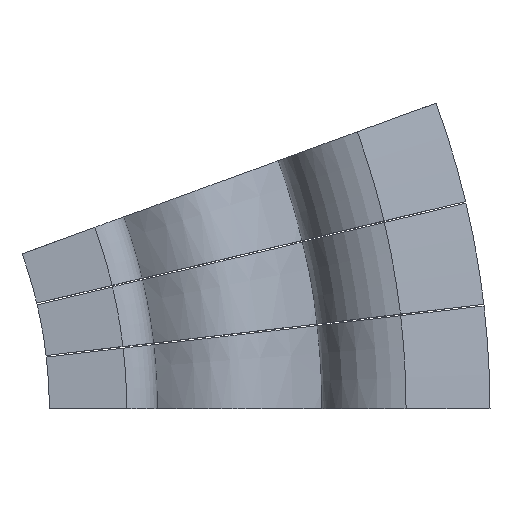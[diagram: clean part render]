
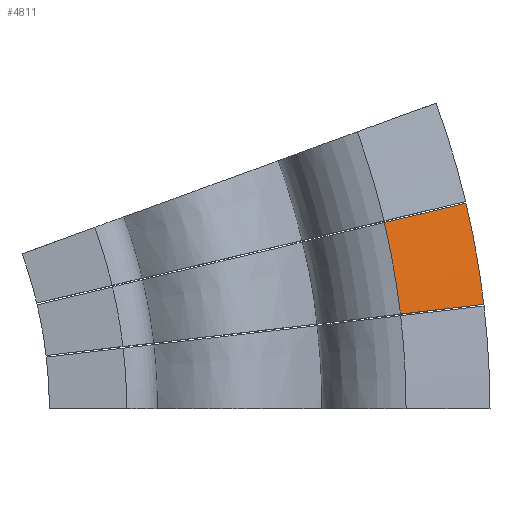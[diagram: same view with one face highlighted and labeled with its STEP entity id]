
A CAD part, top view. The second image highlights one B-rep face of the part: STEP entity #4811.
In plain terms, the highlighted conical face has half-angle 75 degrees and reference radius 8033.87 mm.
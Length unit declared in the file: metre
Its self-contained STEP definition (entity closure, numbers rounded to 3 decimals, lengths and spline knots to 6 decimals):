
#4811 = ADVANCED_FACE('',(#4812),#4827,.T.);
#4812 = FACE_BOUND('',#4813,.F.);
#4813 = EDGE_LOOP('',(#4814,#4853,#4882,#4914));
#4814 = ORIENTED_EDGE('',*,*,#4815,.F.);
#4815 = EDGE_CURVE('',#4816,#4818,#4820,.T.);
#4816 = VERTEX_POINT('',#4817);
#4817 = CARTESIAN_POINT('',(9.869994,1.163705,
    -5.466556));
#4818 = VERTEX_POINT('',#4819);
#4819 = CARTESIAN_POINT('',(10.888198,1.282716,
    -5.74124));
#4820 = SURFACE_CURVE('',#4821,(#4826,#4841),.PCURVE_S1.);
#4821 = HYPERBOLA('',#4822,0.002679,0.01);
#4822 = AXIS2_PLACEMENT_3D('',#4823,#4824,#4825);
#4823 = CARTESIAN_POINT('',(-0.001161,0.009932,
    -2.80358));
#4824 = DIRECTION('',(0.116,-0.993,-0.));
#4825 = DIRECTION('',(-0.,0.,-1.));
#4826 = PCURVE('',#4827,#4832);
#4827 = CONICAL_SURFACE('',#4828,8.033872,1.309);
#4828 = AXIS2_PLACEMENT_3D('',#4829,#4830,#4831);
#4829 = CARTESIAN_POINT('',(0.,0.,-4.95625));
#4830 = DIRECTION('',(-0.,-0.,-1.));
#4831 = DIRECTION('',(1.,0.,0.));
#4832 = DEFINITIONAL_REPRESENTATION('',(#4833),#4840);
#4833 = B_SPLINE_CURVE_WITH_KNOTS('',5,(#4834,#4835,#4836,#4837,#4838,
    #4839),.UNSPECIFIED.,.F.,.F.,(6,6),(7.594719,7.692888),
  .PIECEWISE_BEZIER_KNOTS.);
#4834 = CARTESIAN_POINT('',(-0.117,0.51));
#4835 = CARTESIAN_POINT('',(-0.117,0.563));
#4836 = CARTESIAN_POINT('',(-0.117,0.616));
#4837 = CARTESIAN_POINT('',(-0.117,0.671));
#4838 = CARTESIAN_POINT('',(-0.117,0.727));
#4839 = CARTESIAN_POINT('',(-0.117,0.785));
#4840 = ( GEOMETRIC_REPRESENTATION_CONTEXT(2) 
PARAMETRIC_REPRESENTATION_CONTEXT() REPRESENTATION_CONTEXT('2D SPACE',''
  ) );
#4841 = PCURVE('',#4842,#4847);
#4842 = PLANE('',#4843);
#4843 = AXIS2_PLACEMENT_3D('',#4844,#4845,#4846);
#4844 = CARTESIAN_POINT('',(8.214978,0.970261,
    -6.666234));
#4845 = DIRECTION('',(0.116,-0.993,-0.));
#4846 = DIRECTION('',(0.,0.,-1.));
#4847 = DEFINITIONAL_REPRESENTATION('',(#4848),#4852);
#4848 = ( BOUNDED_CURVE() B_SPLINE_CURVE(2,(#4849,#4850,#4851),
.UNSPECIFIED.,.F.,.F.) B_SPLINE_CURVE_WITH_KNOTS((3,3),(7.594719,
7.692888),.PIECEWISE_BEZIER_KNOTS.) CURVE() 
GEOMETRIC_REPRESENTATION_ITEM() RATIONAL_B_SPLINE_CURVE((1.,
1.001,1.)) REPRESENTATION_ITEM('') );
#4849 = CARTESIAN_POINT('',(-1.2,1.666));
#4850 = CARTESIAN_POINT('',(-1.069,2.154));
#4851 = CARTESIAN_POINT('',(-0.925,2.691));
#4852 = ( GEOMETRIC_REPRESENTATION_CONTEXT(2) 
PARAMETRIC_REPRESENTATION_CONTEXT() REPRESENTATION_CONTEXT('2D SPACE',''
  ) );
#4853 = ORIENTED_EDGE('',*,*,#4854,.T.);
#4854 = EDGE_CURVE('',#4816,#4855,#4857,.T.);
#4855 = VERTEX_POINT('',#4856);
#4856 = CARTESIAN_POINT('',(9.672771,2.282212,
    -5.466556));
#4857 = SURFACE_CURVE('',#4858,(#4863,#4870),.PCURVE_S1.);
#4858 = CIRCLE('',#4859,9.93836);
#4859 = AXIS2_PLACEMENT_3D('',#4860,#4861,#4862);
#4860 = CARTESIAN_POINT('',(0.,0.,-5.466556));
#4861 = DIRECTION('',(0.,0.,1.));
#4862 = DIRECTION('',(1.,0.,-0.));
#4863 = PCURVE('',#4827,#4864);
#4864 = DEFINITIONAL_REPRESENTATION('',(#4865),#4869);
#4865 = LINE('',#4866,#4867);
#4866 = CARTESIAN_POINT('',(-0.,0.51));
#4867 = VECTOR('',#4868,1.);
#4868 = DIRECTION('',(-1.,0.));
#4869 = ( GEOMETRIC_REPRESENTATION_CONTEXT(2) 
PARAMETRIC_REPRESENTATION_CONTEXT() REPRESENTATION_CONTEXT('2D SPACE',''
  ) );
#4870 = PCURVE('',#4871,#4876);
#4871 = TOROIDAL_SURFACE('',#4872,10.040853,1.129878);
#4872 = AXIS2_PLACEMENT_3D('',#4873,#4874,#4875);
#4873 = CARTESIAN_POINT('',(0.,0.,-6.591775));
#4874 = DIRECTION('',(0.,0.,1.));
#4875 = DIRECTION('',(1.,0.,-0.));
#4876 = DEFINITIONAL_REPRESENTATION('',(#4877),#4881);
#4877 = LINE('',#4878,#4879);
#4878 = CARTESIAN_POINT('',(0.,1.662));
#4879 = VECTOR('',#4880,1.);
#4880 = DIRECTION('',(1.,0.));
#4881 = ( GEOMETRIC_REPRESENTATION_CONTEXT(2) 
PARAMETRIC_REPRESENTATION_CONTEXT() REPRESENTATION_CONTEXT('2D SPACE',''
  ) );
#4882 = ORIENTED_EDGE('',*,*,#4883,.T.);
#4883 = EDGE_CURVE('',#4855,#4884,#4886,.T.);
#4884 = VERTEX_POINT('',#4885);
#4885 = CARTESIAN_POINT('',(10.670274,2.518624,
    -5.74124));
#4886 = SURFACE_CURVE('',#4887,(#4892,#4902),.PCURVE_S1.);
#4887 = HYPERBOLA('',#4888,0.002679,0.01);
#4888 = AXIS2_PLACEMENT_3D('',#4889,#4890,#4891);
#4889 = CARTESIAN_POINT('',(0.002306,-0.00973,
    -2.80358));
#4890 = DIRECTION('',(0.231,-0.973,-0.));
#4891 = DIRECTION('',(-0.,0.,-1.));
#4892 = PCURVE('',#4827,#4893);
#4893 = DEFINITIONAL_REPRESENTATION('',(#4894),#4901);
#4894 = B_SPLINE_CURVE_WITH_KNOTS('',5,(#4895,#4896,#4897,#4898,#4899,
    #4900),.UNSPECIFIED.,.F.,.F.,(6,6),(7.594719,7.692888),
  .PIECEWISE_BEZIER_KNOTS.);
#4895 = CARTESIAN_POINT('',(-0.232,0.51));
#4896 = CARTESIAN_POINT('',(-0.232,0.563));
#4897 = CARTESIAN_POINT('',(-0.232,0.616));
#4898 = CARTESIAN_POINT('',(-0.232,0.671));
#4899 = CARTESIAN_POINT('',(-0.232,0.727));
#4900 = CARTESIAN_POINT('',(-0.232,0.785));
#4901 = ( GEOMETRIC_REPRESENTATION_CONTEXT(2) 
PARAMETRIC_REPRESENTATION_CONTEXT() REPRESENTATION_CONTEXT('2D SPACE',''
  ) );
#4902 = PCURVE('',#4903,#4908);
#4903 = PLANE('',#4904);
#4904 = AXIS2_PLACEMENT_3D('',#4905,#4906,#4907);
#4905 = CARTESIAN_POINT('',(8.051404,1.897941,
    -6.666234));
#4906 = DIRECTION('',(0.231,-0.973,-0.));
#4907 = DIRECTION('',(0.,0.,-1.));
#4908 = DEFINITIONAL_REPRESENTATION('',(#4909),#4913);
#4909 = ( BOUNDED_CURVE() B_SPLINE_CURVE(2,(#4910,#4911,#4912),
.UNSPECIFIED.,.F.,.F.) B_SPLINE_CURVE_WITH_KNOTS((3,3),(7.594719,
7.692888),.PIECEWISE_BEZIER_KNOTS.) CURVE() 
GEOMETRIC_REPRESENTATION_ITEM() RATIONAL_B_SPLINE_CURVE((1.,
1.001,1.)) REPRESENTATION_ITEM('') );
#4910 = CARTESIAN_POINT('',(-1.2,1.666));
#4911 = CARTESIAN_POINT('',(-1.069,2.154));
#4912 = CARTESIAN_POINT('',(-0.925,2.691));
#4913 = ( GEOMETRIC_REPRESENTATION_CONTEXT(2) 
PARAMETRIC_REPRESENTATION_CONTEXT() REPRESENTATION_CONTEXT('2D SPACE',''
  ) );
#4914 = ORIENTED_EDGE('',*,*,#4915,.F.);
#4915 = EDGE_CURVE('',#4818,#4884,#4916,.T.);
#4916 = SURFACE_CURVE('',#4917,(#4922,#4929),.PCURVE_S1.);
#4917 = CIRCLE('',#4918,10.963495);
#4918 = AXIS2_PLACEMENT_3D('',#4919,#4920,#4921);
#4919 = CARTESIAN_POINT('',(0.,0.,-5.74124));
#4920 = DIRECTION('',(0.,0.,1.));
#4921 = DIRECTION('',(1.,0.,-0.));
#4922 = PCURVE('',#4827,#4923);
#4923 = DEFINITIONAL_REPRESENTATION('',(#4924),#4928);
#4924 = LINE('',#4925,#4926);
#4925 = CARTESIAN_POINT('',(-0.,0.785));
#4926 = VECTOR('',#4927,1.);
#4927 = DIRECTION('',(-1.,0.));
#4928 = ( GEOMETRIC_REPRESENTATION_CONTEXT(2) 
PARAMETRIC_REPRESENTATION_CONTEXT() REPRESENTATION_CONTEXT('2D SPACE',''
  ) );
#4929 = PCURVE('',#4930,#4975);
#4930 = SURFACE_OF_REVOLUTION('',#4931,#4972);
#4931 = B_SPLINE_CURVE_WITH_KNOTS('',3,(#4932,#4933,#4934,#4935,#4936,
    #4937,#4938,#4939,#4940,#4941,#4942,#4943,#4944,#4945,#4946,#4947,
    #4948,#4949,#4950,#4951,#4952,#4953,#4954,#4955,#4956,#4957,#4958,
    #4959,#4960,#4961,#4962,#4963,#4964,#4965,#4966,#4967,#4968,#4969,
    #4970,#4971),.UNSPECIFIED.,.F.,.F.,(4,1,1,1,1,1,1,1,1,1,1,1,1,1,1,1,
    1,1,1,1,1,1,1,1,1,1,1,1,1,1,1,1,1,1,1,1,1,4),(24.418236,
    24.419877,24.576718,24.734183,24.892419,
    25.051622,25.212063,25.374131,25.538408,
    25.705815,25.877913,26.05764,26.251408,
    26.477386,26.82576,27.336786,27.709708,
    27.894638,28.084409,28.279477,28.480224,
    28.686869,28.899361,29.117247,29.339586,
    29.564938,29.791481,30.017246,30.240412,
    30.459539,30.673696,30.882448,31.085764,
    31.28389,31.477231,31.666261,31.851467,
    31.907983),.UNSPECIFIED.);
#4932 = CARTESIAN_POINT('',(10.963495,0.,-5.74124));
#4933 = CARTESIAN_POINT('',(10.963209,0.,-5.741706));
#4934 = CARTESIAN_POINT('',(10.935592,0.,-5.78674));
#4935 = CARTESIAN_POINT('',(10.880356,0.,-5.876408));
#4936 = CARTESIAN_POINT('',(10.797119,0.,-6.010134));
#4937 = CARTESIAN_POINT('',(10.712739,0.,-6.144073));
#4938 = CARTESIAN_POINT('',(10.626974,0.,-6.278308));
#4939 = CARTESIAN_POINT('',(10.539503,0.,-6.412965));
#4940 = CARTESIAN_POINT('',(10.449885,0.,-6.548237));
#4941 = CARTESIAN_POINT('',(10.357482,0.,-6.684438));
#4942 = CARTESIAN_POINT('',(10.261313,0.,-6.822109));
#4943 = CARTESIAN_POINT('',(10.159734,0.,-6.962256));
#4944 = CARTESIAN_POINT('',(10.049598,0.,-7.107009));
#4945 = CARTESIAN_POINT('',(9.923427,0.,-7.262018));
#4946 = CARTESIAN_POINT('',(9.751455,0.,-7.452006));
#4947 = CARTESIAN_POINT('',(9.480522,0.,-7.693274));
#4948 = CARTESIAN_POINT('',(9.090658,0.,-7.868401));
#4949 = CARTESIAN_POINT('',(8.730086,0.,-7.861839));
#4950 = CARTESIAN_POINT('',(8.481983,0.,-7.843289));
#4951 = CARTESIAN_POINT('',(8.293018,0.,-7.822922));
#4952 = CARTESIAN_POINT('',(8.099934,0.,-7.794041));
#4953 = CARTESIAN_POINT('',(7.902835,0.,-7.755096));
#4954 = CARTESIAN_POINT('',(7.702452,0.,-7.70423));
#4955 = CARTESIAN_POINT('',(7.500029,0.,-7.639616));
#4956 = CARTESIAN_POINT('',(7.297503,0.,-7.559622));
#4957 = CARTESIAN_POINT('',(7.097489,0.,-7.463128));
#4958 = CARTESIAN_POINT('',(6.903111,0.,-7.349834));
#4959 = CARTESIAN_POINT('',(6.717623,0.,-7.220473));
#4960 = CARTESIAN_POINT('',(6.543939,0.,-7.076796));
#4961 = CARTESIAN_POINT('',(6.384195,0.,-6.921312));
#4962 = CARTESIAN_POINT('',(6.239527,0.,-6.756866));
#4963 = CARTESIAN_POINT('',(6.110091,0.,-6.586214));
#4964 = CARTESIAN_POINT('',(5.995272,0.,-6.411718));
#4965 = CARTESIAN_POINT('',(5.893965,0.,-6.235213));
#4966 = CARTESIAN_POINT('',(5.804834,0.,-6.058017));
#4967 = CARTESIAN_POINT('',(5.726502,0.,-5.881005));
#4968 = CARTESIAN_POINT('',(5.657663,0.,-5.704721));
#4969 = CARTESIAN_POINT('',(5.610784,0.,-5.56897));
#4970 = CARTESIAN_POINT('',(5.586282,0.,-5.492206));
#4971 = CARTESIAN_POINT('',(5.580649,0.,-5.474229));
#4972 = AXIS1_PLACEMENT('',#4973,#4974);
#4973 = CARTESIAN_POINT('',(0.,0.,0.));
#4974 = DIRECTION('',(0.,0.,1.));
#4975 = DEFINITIONAL_REPRESENTATION('',(#4976),#4980);
#4976 = LINE('',#4977,#4978);
#4977 = CARTESIAN_POINT('',(0.,24.418));
#4978 = VECTOR('',#4979,1.);
#4979 = DIRECTION('',(1.,0.));
#4980 = ( GEOMETRIC_REPRESENTATION_CONTEXT(2) 
PARAMETRIC_REPRESENTATION_CONTEXT() REPRESENTATION_CONTEXT('2D SPACE',''
  ) );
